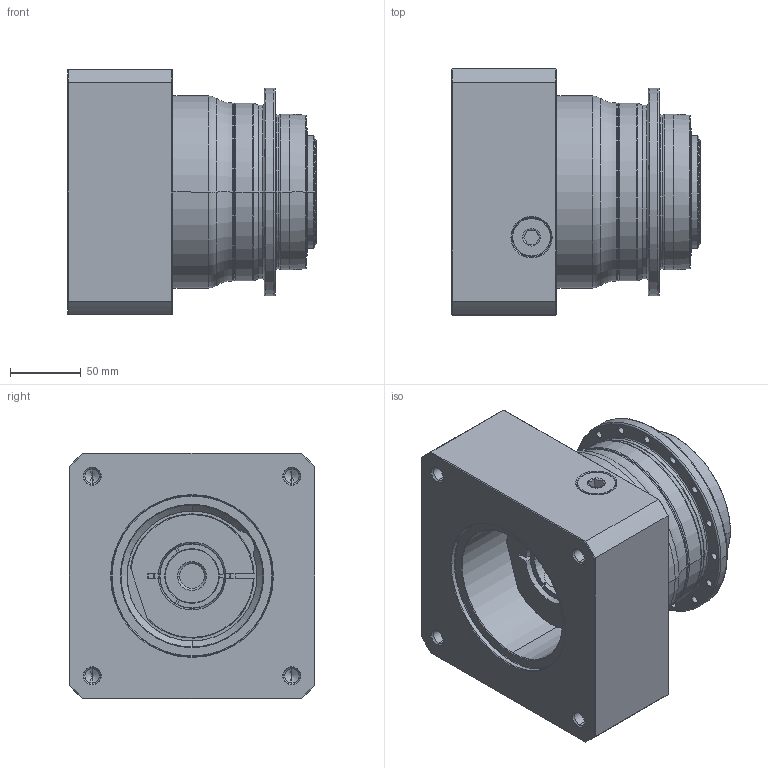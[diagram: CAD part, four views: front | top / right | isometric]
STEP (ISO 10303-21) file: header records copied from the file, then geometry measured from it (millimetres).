
FILE_DESCRIPTION((''),'2;1');
FILE_NAME('AP110_1ST_38-P0409910201_ASM','2018-05-24T',('d01226'),(''),'PRO/ENGINEER BY PARAMETRIC TECHNOLOGY CORPORATION, 2008410','PRO/ENGINEER BY PARAMETRIC TECHNOLOGY CORPORATION, 2008410','');
FILE_SCHEMA(('CONFIG_CONTROL_DESIGN'));
Length unit declared in the file: millimetre
Products named in the file (9): P0278401003; P0359401103; P1318410501; P0503900012; P0912455001; P1211400002; P0409910201; 21711422019; AP110_1ST_38-P0409910201_ASM
Assembly tree (8 placements, depth 2):
  AP110_1ST_38-P0409910201_ASM
    P0278401003
    P0359401103
    P1318410501
    P0503900012
    P0912455001
    P1211400002
    P0409910201
    21711422019
Bounding box: 176 x 174 x 174 mm (x, y, z)
Volume: 2728835.5 mm3; surface area: 327158 mm2
Topology: 9 solids, 30 shells, 560 faces, 1296 edges, 798 vertices
Faces by surface type: cylinder 232, cone 146, plane 99, torus 69, bspline 14
Entity records: 20970 total; most frequent: CARTESIAN_POINT 7555, DIRECTION 3075, ORIENTED_EDGE 2490, AXIS2_PLACEMENT_3D 1316, EDGE_CURVE 1288, VERTEX_POINT 798, CIRCLE 743, EDGE_LOOP 686
